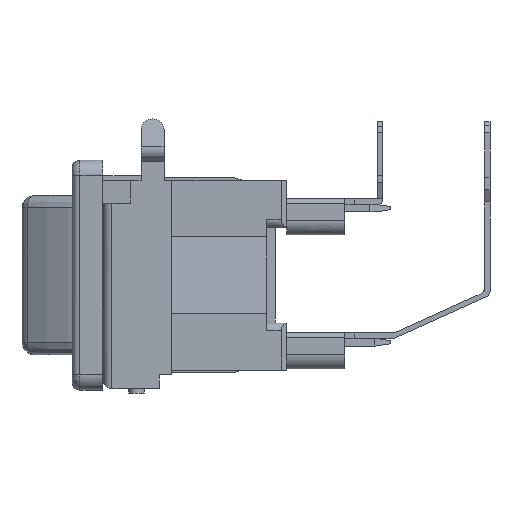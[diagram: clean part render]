
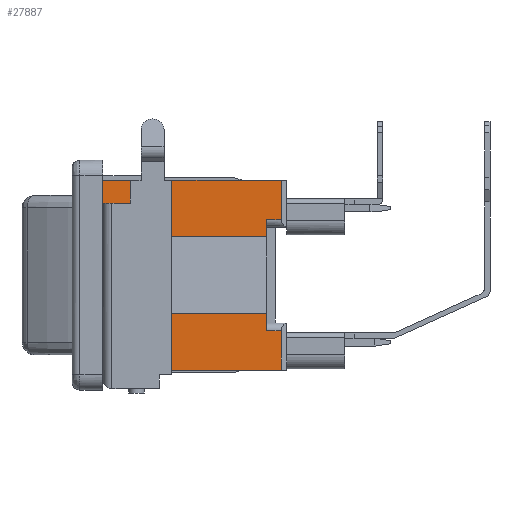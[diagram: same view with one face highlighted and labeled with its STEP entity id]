
A CAD part, left-side view. The second image highlights one B-rep face of the part: STEP entity #27887.
In plain terms, the highlighted planar face has unit normal (-1, 0, 0).
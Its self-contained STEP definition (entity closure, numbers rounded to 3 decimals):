
#16119 = DIRECTION ( 'NONE',  ( 0., 0., 1. ) ) ;
#16120 = VECTOR ( 'NONE', #16119, 1000. ) ;
#16121 = CARTESIAN_POINT ( 'NONE',  ( 8.704, 27.158, 13.8 ) ) ;
#16122 = LINE ( 'NONE', #16121, #16120 ) ;
#16678 = CARTESIAN_POINT ( 'NONE',  ( 8.704, 27.158, 7.6 ) ) ;
#16679 = DIRECTION ( 'NONE',  ( 0., 1., 0. ) ) ;
#16680 = VECTOR ( 'NONE', #16679, 1000. ) ;
#16681 = CARTESIAN_POINT ( 'NONE',  ( 8.704, 21.335, 7.6 ) ) ;
#16682 = LINE ( 'NONE', #16681, #16680 ) ;
#16683 = CARTESIAN_POINT ( 'NONE',  ( 8.704, 15.512, 7.6 ) ) ;
#16693 = CARTESIAN_POINT ( 'NONE',  ( 8.704, 19.158, 16.3 ) ) ;
#16710 = CARTESIAN_POINT ( 'NONE',  ( 8.704, 16.458, 11.3 ) ) ;
#16711 = DIRECTION ( 'NONE',  ( 0., -1., 0. ) ) ;
#16712 = VECTOR ( 'NONE', #16711, 1000. ) ;
#16713 = CARTESIAN_POINT ( 'NONE',  ( 8.704, 21.335, 11.3 ) ) ;
#16714 = LINE ( 'NONE', #16713, #16712 ) ;
#16742 = CARTESIAN_POINT ( 'NONE',  ( 8.704, 19.158, 11.3 ) ) ;
#16743 = DIRECTION ( 'NONE',  ( 0., 0., -1. ) ) ;
#16744 = VECTOR ( 'NONE', #16743, 1000. ) ;
#16745 = CARTESIAN_POINT ( 'NONE',  ( 8.704, 19.158, 13.8 ) ) ;
#16746 = LINE ( 'NONE', #16745, #16744 ) ;
#16753 = DIRECTION ( 'NONE',  ( 0., 1., 0. ) ) ;
#16754 = VECTOR ( 'NONE', #16753, 1000. ) ;
#16755 = CARTESIAN_POINT ( 'NONE',  ( 8.704, 21.335, 16.3 ) ) ;
#16756 = LINE ( 'NONE', #16755, #16754 ) ;
#16757 = CARTESIAN_POINT ( 'NONE',  ( 8.704, 16.458, 16.3 ) ) ;
#16770 = DIRECTION ( 'NONE',  ( 0., 0., -1. ) ) ;
#16771 = VECTOR ( 'NONE', #16770, 1000. ) ;
#16772 = CARTESIAN_POINT ( 'NONE',  ( 8.704, 15.512, 13.8 ) ) ;
#16777 = LINE ( 'NONE', #16772, #16771 ) ;
#16778 = CARTESIAN_POINT ( 'NONE',  ( 8.704, 15.512, 10.175 ) ) ;
#16924 = DIRECTION ( 'NONE',  ( 0., -1., 0. ) ) ;
#16925 = VECTOR ( 'NONE', #16924, 1000. ) ;
#16926 = CARTESIAN_POINT ( 'NONE',  ( 8.704, 21.335, 10.175 ) ) ;
#16927 = LINE ( 'NONE', #16926, #16925 ) ;
#16928 = CARTESIAN_POINT ( 'NONE',  ( 8.704, 16.458, 10.175 ) ) ;
#16971 = CARTESIAN_POINT ( 'NONE',  ( 8.704, 27.158, 20. ) ) ;
#19253 = CARTESIAN_POINT ( 'NONE',  ( 8.704, 16.458, 17.425 ) ) ;
#19254 = DIRECTION ( 'NONE',  ( 0., 0., -1. ) ) ;
#19255 = VECTOR ( 'NONE', #19254, 1000. ) ;
#19256 = CARTESIAN_POINT ( 'NONE',  ( 8.704, 16.458, 13.8 ) ) ;
#19257 = LINE ( 'NONE', #19256, #19255 ) ;
#19258 = DIRECTION ( 'NONE',  ( 0., 0., 1. ) ) ;
#19259 = DIRECTION ( 'NONE',  ( 1., 0., 0. ) ) ;
#19260 = CARTESIAN_POINT ( 'NONE',  ( 8.704, 27.158, 7.6 ) ) ;
#19261 = AXIS2_PLACEMENT_3D ( 'NONE', #19260, #19259, #19258 ) ;
#19262 = PLANE ( 'NONE',  #19261 ) ;
#19263 = FACE_OUTER_BOUND ( 'NONE', #27888, .T. ) ;
#19264 = DIRECTION ( 'NONE',  ( 0., 1., 0. ) ) ;
#19265 = VECTOR ( 'NONE', #19264, 1000. ) ;
#19266 = CARTESIAN_POINT ( 'NONE',  ( 8.704, 21.158, 20. ) ) ;
#19267 = LINE ( 'NONE', #19266, #19265 ) ;
#19377 = CARTESIAN_POINT ( 'NONE',  ( 8.704, 15.512, 17.425 ) ) ;
#19378 = DIRECTION ( 'NONE',  ( 0., -1., 0. ) ) ;
#19379 = VECTOR ( 'NONE', #19378, 1000. ) ;
#19380 = CARTESIAN_POINT ( 'NONE',  ( 8.704, 15.808, 17.425 ) ) ;
#19381 = LINE ( 'NONE', #19380, #19379 ) ;
#19382 = DIRECTION ( 'NONE',  ( 0., 0., -1. ) ) ;
#19383 = VECTOR ( 'NONE', #19382, 1000. ) ;
#19384 = CARTESIAN_POINT ( 'NONE',  ( 8.704, 16.458, 13.8 ) ) ;
#19385 = LINE ( 'NONE', #19384, #19383 ) ;
#19429 = CARTESIAN_POINT ( 'NONE',  ( 8.704, 15.512, 20. ) ) ;
#19430 = DIRECTION ( 'NONE',  ( 0., 0., 1. ) ) ;
#19431 = VECTOR ( 'NONE', #19430, 1000. ) ;
#19432 = CARTESIAN_POINT ( 'NONE',  ( 8.704, 15.512, 18.464 ) ) ;
#19433 = LINE ( 'NONE', #19432, #19431 ) ;
#26307 = EDGE_CURVE ( 'NONE', #26694, #26906, #16122, .T. ) ;
#26676 = VERTEX_POINT ( 'NONE', #16693 ) ;
#26691 = VERTEX_POINT ( 'NONE', #16683 ) ;
#26693 = EDGE_CURVE ( 'NONE', #26691, #26694, #16682, .T. ) ;
#26694 = VERTEX_POINT ( 'NONE', #16678 ) ;
#26717 = EDGE_CURVE ( 'NONE', #26734, #26718, #16714, .T. ) ;
#26718 = VERTEX_POINT ( 'NONE', #16710 ) ;
#26727 = VERTEX_POINT ( 'NONE', #16757 ) ;
#26729 = EDGE_CURVE ( 'NONE', #26727, #26676, #16756, .T. ) ;
#26733 = EDGE_CURVE ( 'NONE', #26676, #26734, #16746, .T. ) ;
#26734 = VERTEX_POINT ( 'NONE', #16742 ) ;
#26767 = VERTEX_POINT ( 'NONE', #16778 ) ;
#26769 = EDGE_CURVE ( 'NONE', #26767, #26691, #16777, .T. ) ;
#26884 = VERTEX_POINT ( 'NONE', #16928 ) ;
#26886 = EDGE_CURVE ( 'NONE', #26884, #26767, #16927, .T. ) ;
#26906 = VERTEX_POINT ( 'NONE', #16971 ) ;
#27879 = ORIENTED_EDGE ( 'NONE', *, *, #27880, .T. ) ;
#27880 = EDGE_CURVE ( 'NONE', #27961, #26906, #19267, .T. ) ;
#27881 = ORIENTED_EDGE ( 'NONE', *, *, #26307, .F. ) ;
#27882 = ORIENTED_EDGE ( 'NONE', *, *, #26693, .F. ) ;
#27883 = ORIENTED_EDGE ( 'NONE', *, *, #26769, .F. ) ;
#27887 = ADVANCED_FACE ( 'NONE', ( #19263 ), #19262, .F. ) ;
#27888 = EDGE_LOOP ( 'NONE', ( #27889, #27890, #27892, #27893, #27894, #27954, #27956, #27959, #27879, #27881, #27882, #27883 ) ) ;
#27889 = ORIENTED_EDGE ( 'NONE', *, *, #26886, .F. ) ;
#27890 = ORIENTED_EDGE ( 'NONE', *, *, #27891, .F. ) ;
#27891 = EDGE_CURVE ( 'NONE', #26718, #26884, #19257, .T. ) ;
#27892 = ORIENTED_EDGE ( 'NONE', *, *, #26717, .F. ) ;
#27893 = ORIENTED_EDGE ( 'NONE', *, *, #26733, .F. ) ;
#27894 = ORIENTED_EDGE ( 'NONE', *, *, #26729, .F. ) ;
#27895 = VERTEX_POINT ( 'NONE', #19253 ) ;
#27954 = ORIENTED_EDGE ( 'NONE', *, *, #27955, .F. ) ;
#27955 = EDGE_CURVE ( 'NONE', #27895, #26727, #19385, .T. ) ;
#27956 = ORIENTED_EDGE ( 'NONE', *, *, #27957, .T. ) ;
#27957 = EDGE_CURVE ( 'NONE', #27895, #27958, #19381, .T. ) ;
#27958 = VERTEX_POINT ( 'NONE', #19377 ) ;
#27959 = ORIENTED_EDGE ( 'NONE', *, *, #27960, .T. ) ;
#27960 = EDGE_CURVE ( 'NONE', #27958, #27961, #19433, .T. ) ;
#27961 = VERTEX_POINT ( 'NONE', #19429 ) ;
